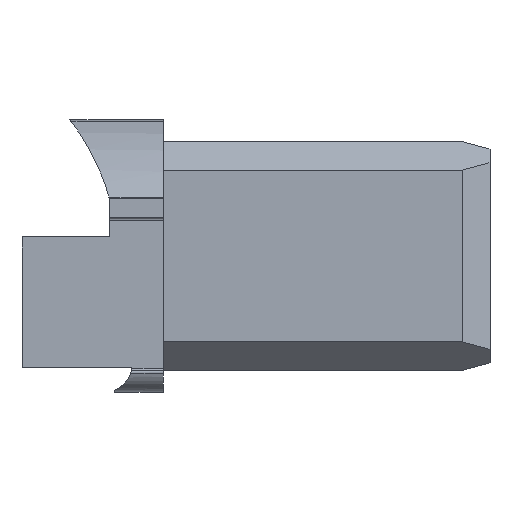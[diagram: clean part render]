
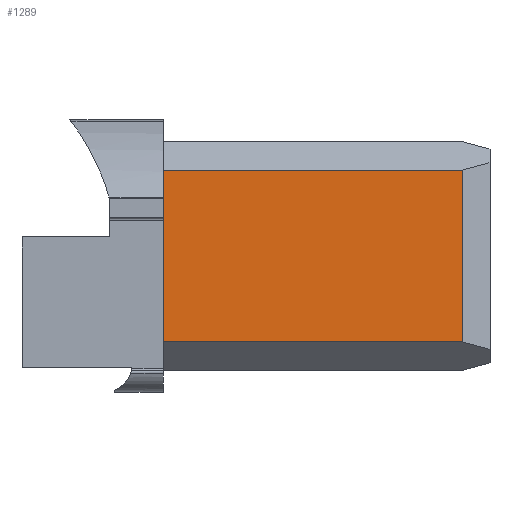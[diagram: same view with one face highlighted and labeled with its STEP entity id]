
A CAD part, front view. The second image highlights one B-rep face of the part: STEP entity #1289.
In plain terms, the highlighted planar face has unit normal (0, -1, 0).
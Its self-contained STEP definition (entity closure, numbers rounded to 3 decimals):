
#25 = VECTOR ( 'NONE', #1024, 1000. ) ;
#85 = VERTEX_POINT ( 'NONE', #209 ) ;
#167 = PLANE ( 'NONE',  #556 ) ;
#177 = EDGE_CURVE ( 'NONE', #189, #1517, #233, .T. ) ;
#189 = VERTEX_POINT ( 'NONE', #1772 ) ;
#190 = EDGE_CURVE ( 'NONE', #966, #189, #811, .T. ) ;
#209 = CARTESIAN_POINT ( 'NONE',  ( 27.5, -10.5, 7.9 ) ) ;
#233 = LINE ( 'NONE', #1310, #1172 ) ;
#268 = EDGE_CURVE ( 'NONE', #85, #966, #1280, .T. ) ;
#476 = ORIENTED_EDGE ( 'NONE', *, *, #1501, .T. ) ;
#508 = DIRECTION ( 'NONE',  ( 1., 0., 0. ) ) ;
#556 = AXIS2_PLACEMENT_3D ( 'NONE', #1250, #1258, #763 ) ;
#578 = CARTESIAN_POINT ( 'NONE',  ( 27.5, -10.5, 10.5 ) ) ;
#706 = VECTOR ( 'NONE', #1007, 1000. ) ;
#763 = DIRECTION ( 'NONE',  ( 0., 0., 1. ) ) ;
#811 = LINE ( 'NONE', #1751, #706 ) ;
#945 = ORIENTED_EDGE ( 'NONE', *, *, #177, .T. ) ;
#966 = VERTEX_POINT ( 'NONE', #1766 ) ;
#1007 = DIRECTION ( 'NONE',  ( 0., 0., -1. ) ) ;
#1013 = LINE ( 'NONE', #578, #25 ) ;
#1024 = DIRECTION ( 'NONE',  ( 0., 0., 1. ) ) ;
#1172 = VECTOR ( 'NONE', #508, 1000. ) ;
#1190 = EDGE_LOOP ( 'NONE', ( #945, #476, #1584, #1991 ) ) ;
#1233 = FACE_OUTER_BOUND ( 'NONE', #1190, .T. ) ;
#1250 = CARTESIAN_POINT ( 'NONE',  ( 30., -10.5, 10.5 ) ) ;
#1258 = DIRECTION ( 'NONE',  ( 0., 1., 0. ) ) ;
#1280 = LINE ( 'NONE', #1597, #1594 ) ;
#1289 = ADVANCED_FACE ( 'NONE', ( #1233 ), #167, .F. ) ;
#1310 = CARTESIAN_POINT ( 'NONE',  ( 30., -10.5, -7.9 ) ) ;
#1501 = EDGE_CURVE ( 'NONE', #1517, #85, #1013, .T. ) ;
#1517 = VERTEX_POINT ( 'NONE', #1636 ) ;
#1584 = ORIENTED_EDGE ( 'NONE', *, *, #268, .T. ) ;
#1594 = VECTOR ( 'NONE', #1905, 1000. ) ;
#1597 = CARTESIAN_POINT ( 'NONE',  ( 30., -10.5, 7.9 ) ) ;
#1636 = CARTESIAN_POINT ( 'NONE',  ( 27.5, -10.5, -7.9 ) ) ;
#1751 = CARTESIAN_POINT ( 'NONE',  ( 0., -10.5, 10.5 ) ) ;
#1766 = CARTESIAN_POINT ( 'NONE',  ( 0., -10.5, 7.9 ) ) ;
#1772 = CARTESIAN_POINT ( 'NONE',  ( 0., -10.5, -7.9 ) ) ;
#1905 = DIRECTION ( 'NONE',  ( -1., 0., 0. ) ) ;
#1991 = ORIENTED_EDGE ( 'NONE', *, *, #190, .T. ) ;
